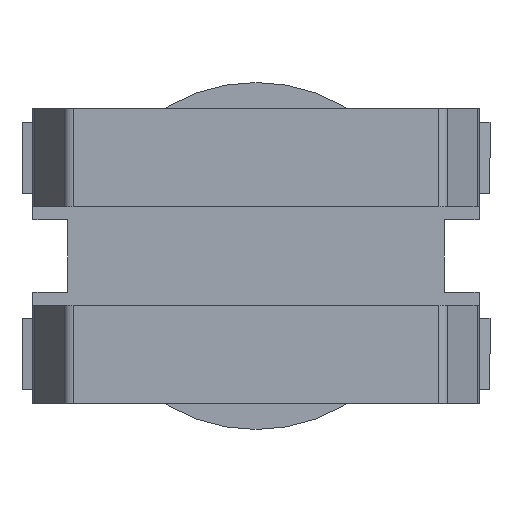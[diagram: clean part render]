
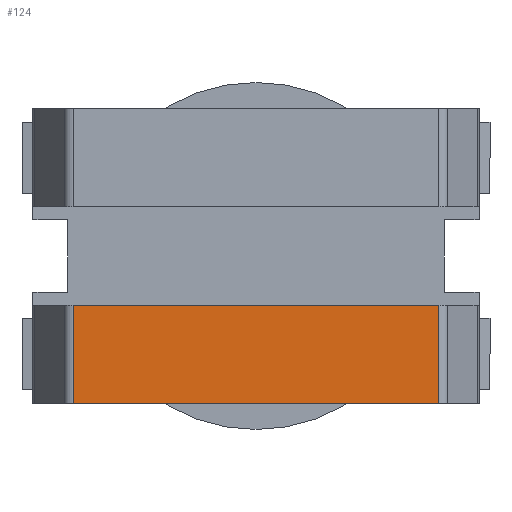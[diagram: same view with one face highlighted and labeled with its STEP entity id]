
A CAD part, front view. The second image highlights one B-rep face of the part: STEP entity #124.
In plain terms, the highlighted planar face has unit normal (0, -1, 0).
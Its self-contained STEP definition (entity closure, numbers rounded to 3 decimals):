
#124 = ADVANCED_FACE ( 'NONE', ( #1668 ), #5273, .F. ) ;
#347 = ORIENTED_EDGE ( 'NONE', *, *, #4768, .F. ) ;
#354 = ORIENTED_EDGE ( 'NONE', *, *, #4767, .T. ) ;
#426 = VERTEX_POINT ( 'NONE', #2340 ) ;
#446 = ORIENTED_EDGE ( 'NONE', *, *, #4765, .T. ) ;
#559 = ORIENTED_EDGE ( 'NONE', *, *, #4769, .F. ) ;
#720 = VERTEX_POINT ( 'NONE', #2490 ) ;
#766 = VERTEX_POINT ( 'NONE', #2514 ) ;
#784 = VERTEX_POINT ( 'NONE', #2512 ) ;
#1361 = EDGE_LOOP ( 'NONE', ( #354, #347, #559, #446 ) ) ;
#1668 = FACE_OUTER_BOUND ( 'NONE', #1361, .T. ) ;
#2340 = CARTESIAN_POINT ( 'NONE',  ( -18.423, -8.946, 4.95 ) ) ;
#2490 = CARTESIAN_POINT ( 'NONE',  ( 18.423, -8.946, 4.95 ) ) ;
#2512 = CARTESIAN_POINT ( 'NONE',  ( -18.423, -8.946, -4.95 ) ) ;
#2514 = CARTESIAN_POINT ( 'NONE',  ( 18.423, -8.946, -4.95 ) ) ;
#2998 = DIRECTION ( 'NONE',  ( 0., 0., -1. ) ) ;
#3004 = CARTESIAN_POINT ( 'NONE',  ( -18.423, -8.946, 4.95 ) ) ;
#3007 = DIRECTION ( 'NONE',  ( 1., 0., 0. ) ) ;
#3011 = CARTESIAN_POINT ( 'NONE',  ( -18.423, -8.946, -4.95 ) ) ;
#3013 = CARTESIAN_POINT ( 'NONE',  ( -18.423, -8.946, 4.95 ) ) ;
#3017 = CARTESIAN_POINT ( 'NONE',  ( 18.423, -8.946, 4.95 ) ) ;
#3019 = DIRECTION ( 'NONE',  ( 0., 0., -1. ) ) ;
#3020 = DIRECTION ( 'NONE',  ( 1., 0., 0. ) ) ;
#3375 = LINE ( 'NONE', #3004, #3377 ) ;
#3376 = LINE ( 'NONE', #3013, #3384 ) ;
#3377 = VECTOR ( 'NONE', #2998, 1000. ) ;
#3378 = LINE ( 'NONE', #3011, #3380 ) ;
#3379 = LINE ( 'NONE', #3017, #3382 ) ;
#3380 = VECTOR ( 'NONE', #3007, 1000. ) ;
#3382 = VECTOR ( 'NONE', #3019, 1000. ) ;
#3384 = VECTOR ( 'NONE', #3020, 1000. ) ;
#4765 = EDGE_CURVE ( 'NONE', #426, #784, #3375, .T. ) ;
#4767 = EDGE_CURVE ( 'NONE', #784, #766, #3378, .T. ) ;
#4768 = EDGE_CURVE ( 'NONE', #720, #766, #3379, .T. ) ;
#4769 = EDGE_CURVE ( 'NONE', #426, #720, #3376, .T. ) ;
#5065 = AXIS2_PLACEMENT_3D ( 'NONE', #5276, #5255, #5238 ) ;
#5238 = DIRECTION ( 'NONE',  ( -1., 0., 0. ) ) ;
#5255 = DIRECTION ( 'NONE',  ( 0., 1., 0. ) ) ;
#5273 = PLANE ( 'NONE',  #5065 ) ;
#5276 = CARTESIAN_POINT ( 'NONE',  ( -18.423, -8.946, 4.95 ) ) ;
